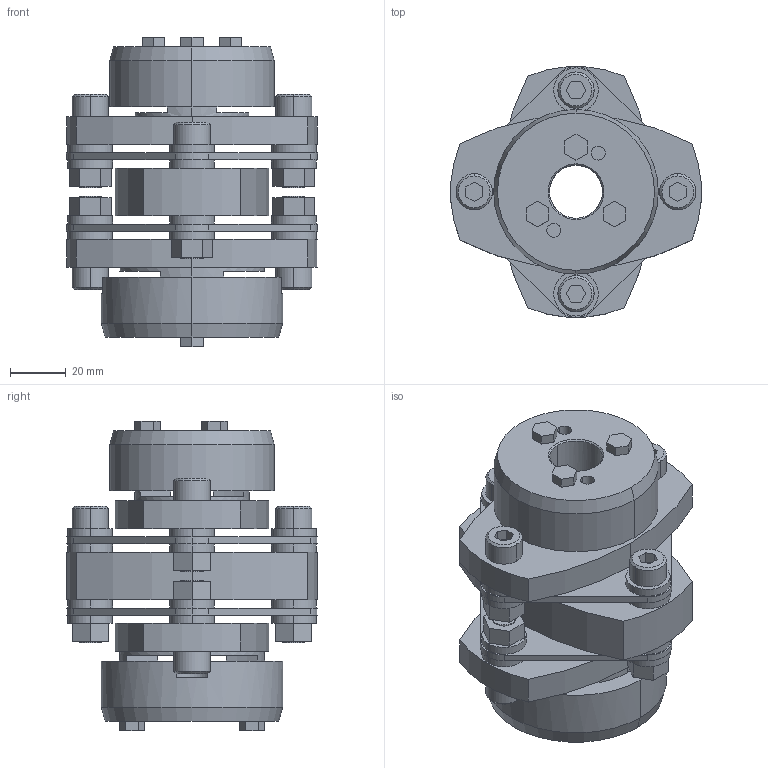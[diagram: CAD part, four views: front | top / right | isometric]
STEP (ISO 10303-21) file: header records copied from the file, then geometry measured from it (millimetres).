
FILE_DESCRIPTION((''),'2;1');
FILE_NAME('LCD-90T7-19×28.stp','2015-11-01T19:21:32',(''),(''),'AutoCAD STEP 2000i','AutoCAD 2000i',', , ');
FILE_SCHEMA(('CONFIG_CONTROL_DESIGN'));
Length unit declared in the file: millimetre
Products named in the file (7): LCD-90T7-19×30; 忣兜1; LC90T7-T030; LC90T7-T025; LC90T7-T019-1; LC90T7-T019; LCD90-ITA
Assembly tree (6 placements, depth 2):
  LCD-90T7-19×30
    忣兜1
    LC90T7-T030
    LC90T7-T025
    LC90T7-T019-1
    LC90T7-T019
    LCD90-ITA
Bounding box: 90 x 89.94 x 111 mm (x, y, z)
Volume: 281451.1 mm3; surface area: 74844.2 mm2
Topology: 1 solids, 1 shells, 317 faces, 774 edges, 508 vertices
Faces by surface type: plane 171, cylinder 122, cone 24
Entity records: 9595 total; most frequent: DIRECTION 1710, CARTESIAN_POINT 1606, ORIENTED_EDGE 1548, EDGE_CURVE 774, AXIS2_PLACEMENT_3D 612, VERTEX_POINT 508, VECTOR 486, LINE 486
